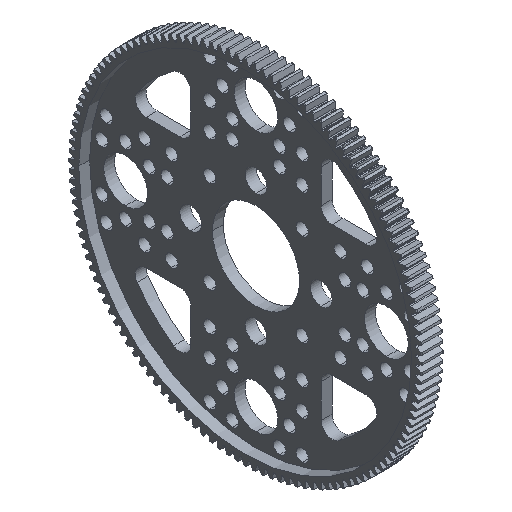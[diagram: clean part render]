
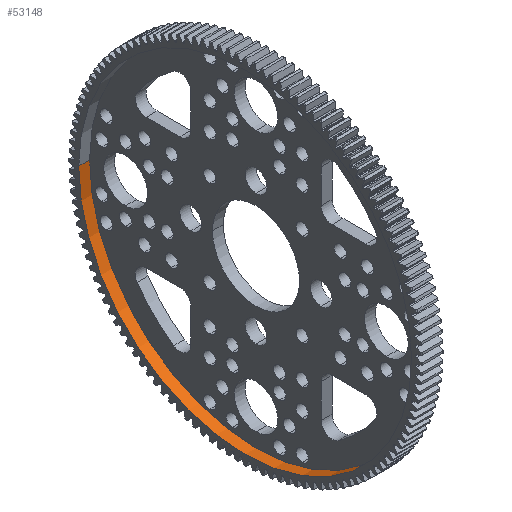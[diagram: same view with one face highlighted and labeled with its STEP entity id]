
A CAD part, isometric view. The second image highlights one B-rep face of the part: STEP entity #53148.
In plain terms, the highlighted cylindrical face has radius 48.611 mm (diameter 97.221 mm), a partial arc.
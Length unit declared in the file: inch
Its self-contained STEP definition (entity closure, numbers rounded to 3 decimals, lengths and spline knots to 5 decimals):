
#1130 = ORIENTED_EDGE ( 'NONE', *, *, #48671, .F. ) ;
#2169 = ORIENTED_EDGE ( 'NONE', *, *, #2684, .F. ) ;
#2684 = EDGE_CURVE ( 'NONE', #34907, #49625, #21722, .T. ) ;
#4747 = DIRECTION ( 'NONE',  ( -1., 0., 0. ) ) ;
#4977 = AXIS2_PLACEMENT_3D ( 'NONE', #12124, #41664, #16343 ) ;
#8295 = CARTESIAN_POINT ( 'NONE',  ( 0., -1.9138, 0. ) ) ;
#8381 = CARTESIAN_POINT ( 'NONE',  ( 0., 0., 0. ) ) ;
#8451 = EDGE_LOOP ( 'NONE', ( #1130, #36628, #48346, #2169 ) ) ;
#10635 = FACE_OUTER_BOUND ( 'NONE', #8451, .T. ) ;
#12124 = CARTESIAN_POINT ( 'NONE',  ( -0.125, 0., 0. ) ) ;
#15099 = CIRCLE ( 'NONE', #32151, 1.9138 ) ;
#16343 = DIRECTION ( 'NONE',  ( 0., -1., 0. ) ) ;
#17395 = CARTESIAN_POINT ( 'NONE',  ( 0., 1.9138, 0. ) ) ;
#19171 = VERTEX_POINT ( 'NONE', #20047 ) ;
#20047 = CARTESIAN_POINT ( 'NONE',  ( -0.125, 1.9138, 0. ) ) ;
#20417 = VECTOR ( 'NONE', #4747, 39.37008 ) ;
#20979 = DIRECTION ( 'NONE',  ( -1., 0., 0. ) ) ;
#21722 = LINE ( 'NONE', #50913, #20417 ) ;
#29515 = VECTOR ( 'NONE', #51153, 39.37008 ) ;
#32151 = AXIS2_PLACEMENT_3D ( 'NONE', #46324, #20979, #50513 ) ;
#32887 = VERTEX_POINT ( 'NONE', #35241 ) ;
#33455 = DIRECTION ( 'NONE',  ( -1., 0., 0. ) ) ;
#34907 = VERTEX_POINT ( 'NONE', #8295 ) ;
#35241 = CARTESIAN_POINT ( 'NONE',  ( 0., 1.9138, 0. ) ) ;
#36628 = ORIENTED_EDGE ( 'NONE', *, *, #50217, .T. ) ;
#37902 = DIRECTION ( 'NONE',  ( 0., -1., 0. ) ) ;
#41084 = CIRCLE ( 'NONE', #4977, 1.9138 ) ;
#41664 = DIRECTION ( 'NONE',  ( -1., 0., 0. ) ) ;
#43021 = CYLINDRICAL_SURFACE ( 'NONE', #50672, 1.9138 ) ;
#46324 = CARTESIAN_POINT ( 'NONE',  ( 0., 0., 0. ) ) ;
#48335 = CARTESIAN_POINT ( 'NONE',  ( -0.125, -1.9138, 0. ) ) ;
#48346 = ORIENTED_EDGE ( 'NONE', *, *, #51026, .T. ) ;
#48671 = EDGE_CURVE ( 'NONE', #32887, #34907, #15099, .T. ) ;
#49625 = VERTEX_POINT ( 'NONE', #48335 ) ;
#50217 = EDGE_CURVE ( 'NONE', #32887, #19171, #51967, .T. ) ;
#50513 = DIRECTION ( 'NONE',  ( 0., -1., 0. ) ) ;
#50672 = AXIS2_PLACEMENT_3D ( 'NONE', #8381, #33455, #37902 ) ;
#50913 = CARTESIAN_POINT ( 'NONE',  ( 0., -1.9138, 0. ) ) ;
#51026 = EDGE_CURVE ( 'NONE', #19171, #49625, #41084, .T. ) ;
#51153 = DIRECTION ( 'NONE',  ( -1., 0., 0. ) ) ;
#51967 = LINE ( 'NONE', #17395, #29515 ) ;
#53148 = ADVANCED_FACE ( 'NONE', ( #10635 ), #43021, .F. ) ;
